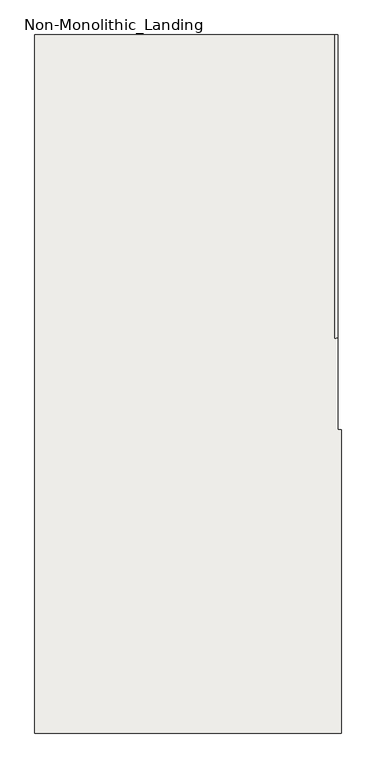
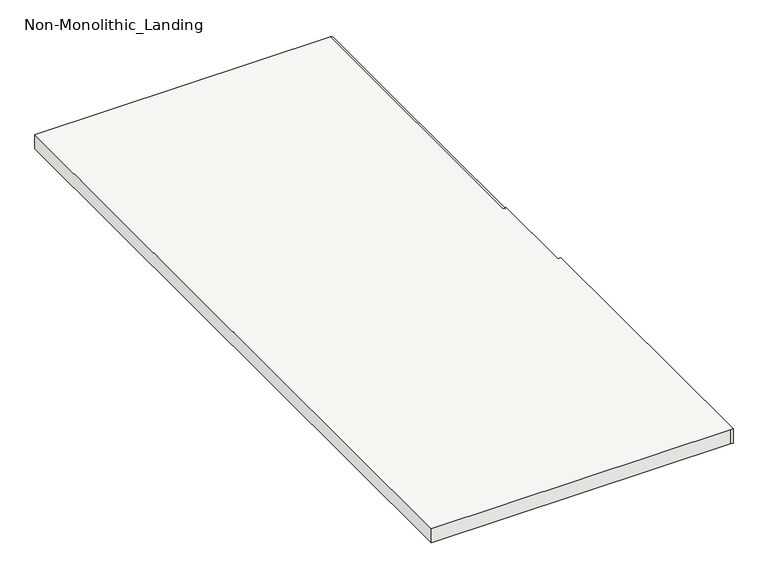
"""IFC4 building model written with IfcOpenShell, lengths in millimetres: slab geometry, Non-Monolithic_Landing."""

from ifc_helpers import new_model, si_unit, frame, origin, place, context, project, spatial, circle_curve, source, transform, mapped, element, save
from ifc_brep_helpers import plane_surface, cylinder_surface, advanced_brep


def non_monolithic_landing_9e87be6b(model_context):
    return source(origin(), model_context, "Body", "AdvancedBrep", [
        advanced_brep(
        [(-17335.9339353, 493.6800404, 4280.0), (-17335.9339353, 493.6800404, 4300.0), (-17335.9339353, -506.3199596, 4300.0), (-17325.9339353, -506.3199596, 4290.0), (-17335.9339353, -506.3199596, 4280.0), (-17325.9339353, -506.3199596, 4300.0), (-18325.9339353, 493.6800404, 4300.0), (-18325.9339353, -1806.3199596, 4300.0), (-17325.9339353, -1806.3199596, 4300.0), (-17315.9339353, -1806.3199596, 4300.0), (-17315.9339353, -806.3199596, 4300.0), (-17325.9339353, -806.3199596, 4300.0), (-17335.9339353, -506.3199596, 4250.0), (-17325.9339353, -506.3199596, 4250.0), (-17325.9339353, -806.3199596, 4250.0), (-17315.9339353, -806.3199596, 4250.0), (-17315.9339353, -1806.3199596, 4250.0), (-17325.9339353, -1806.3199596, 4250.0), (-18325.9339353, -1806.3199596, 4250.0), (-18325.9339353, 493.6800404, 4250.0), (-17335.9339353, 493.6800404, 4250.0)],
        [
            (0, 1, circle_curve(frame((-17335.9339353, 493.6800404, 4290.0), z_axis=(0.0, -1.0, 0.0), x_axis=(-1.0, 0.0, 0.0)), 10.0)),
            (1, 2),
            (2, 3, circle_curve(frame((-17335.9339353, -506.3199596, 4290.0), z_axis=(0.0, 1.0, 0.0), x_axis=(-1.0, 0.0, 0.0)), 10.0)),
            (3, 4, circle_curve(frame((-17335.9339353, -506.3199596, 4290.0), z_axis=(0.0, 1.0, 0.0), x_axis=(-1.0, 0.0, 0.0)), 10.0)),
            (4, 0),
            (5, 2),
            (1, 6),
            (6, 7),
            (7, 8),
            (8, 9),
            (9, 10),
            (10, 11),
            (11, 5),
            (12, 13),
            (13, 14),
            (14, 15),
            (15, 16),
            (16, 17),
            (17, 18),
            (18, 19),
            (19, 20),
            (20, 12),
            (5, 3),
            (12, 4),
            (3, 13),
            (20, 0),
            (19, 6),
            (18, 7),
            (17, 8),
            (16, 9),
            (15, 10),
            (14, 11),
        ],
        [
            cylinder_surface(frame((-17335.9339353, 493.6800404, 4290.0), z_axis=(0.0, 1.0, 0.0), x_axis=(-1.0, 0.0, 0.0)), 10.0),
            plane_surface(frame((-17325.9339353, -506.3199596, 4300.0), z_axis=(0.0, 0.0, 1.0), x_axis=(-1.0, 0.0, 0.0))),
            plane_surface(frame((-17325.9339353, -506.3199596, 4250.0), z_axis=(0.0, 0.0, -1.0), x_axis=(1.0, 0.0, 0.0))),
            plane_surface(frame((-17325.9339353, -506.3199596, 4300.0), z_axis=(0.0, 1.0, 0.0), x_axis=(0.0, 0.0, -1.0))),
            plane_surface(frame((-17335.9339353, -506.3199596, 4300.0), z_axis=(1.0, 0.0, 0.0), x_axis=(0.0, 0.0, -1.0))),
            plane_surface(frame((-17335.9339353, 493.6800404, 4300.0), z_axis=(0.0, 1.0, 0.0), x_axis=(0.0, 0.0, -1.0))),
            plane_surface(frame((-18325.9339353, 493.6800404, 4300.0), z_axis=(-1.0, 0.0, 0.0), x_axis=(0.0, 0.0, -1.0))),
            plane_surface(frame((-18325.9339353, -1806.3199596, 4300.0), z_axis=(0.0, -1.0, 0.0), x_axis=(0.0, 0.0, -1.0))),
            plane_surface(frame((-17325.9339353, -1806.3199596, 4300.0), z_axis=(0.0, -1.0, 0.0), x_axis=(0.0, 0.0, -1.0))),
            plane_surface(frame((-17315.9339353, -1806.3199596, 4300.0), z_axis=(1.0, 0.0, 0.0), x_axis=(0.0, 0.0, -1.0))),
            plane_surface(frame((-17315.9339353, -806.3199596, 4300.0), z_axis=(0.0, 1.0, 0.0), x_axis=(0.0, 0.0, -1.0))),
            plane_surface(frame((-17325.9339353, -806.3199596, 4300.0), z_axis=(1.0, 0.0, 0.0), x_axis=(0.0, 0.0, -1.0))),
        ],
        [
            (0, [[1, 2, 3, 4, 5]]),
            (1, [[6, -2, 7, 8, 9, 10, 11, 12, 13]]),
            (2, [[14, 15, 16, 17, 18, 19, 20, 21, 22]]),
            (3, [[-6, 23, -3]]),
            (3, [[-14, 24, -4, 25]]),
            (4, [[-22, 26, -5, -24]]),
            (5, [[-7, -1, -26, -21, 27]]),
            (6, [[-8, -27, -20, 28]]),
            (7, [[-9, -28, -19, 29]]),
            (8, [[-10, -29, -18, 30]]),
            (9, [[-11, -30, -17, 31]]),
            (10, [[-12, -31, -16, 32]]),
            (11, [[-13, -32, -15, -25, -23]]),
        ],
    ),
    ])


if __name__ == "__main__":
    model = new_model("IFC4")
    model_context = context("Model", 3, world=origin())
    ifc_project = project(units=[si_unit("LENGTHUNIT", "METRE", prefix="MILLI")], contexts=[model_context])
    site = spatial("IfcSite", under=ifc_project)
    building = spatial("IfcBuilding", under=site)
    placement = place(None, origin())
    non_monolithic_landing_shape = non_monolithic_landing_9e87be6b(model_context)
    element("IfcSlab", 1, ObjectType="Non-Monolithic_Landing", at=placement, inside=building, context=model_context, shape_type="MappedRepresentation", body=[
        mapped(non_monolithic_landing_shape, transform((0.0, 0.0, 0.0), x_axis=(1.0, 0.0, 0.0), y_axis=(0.0, 1.0, 0.0), z_axis=(0.0, 0.0, 1.0))),
    ])
    save(model, "model.ifc")
